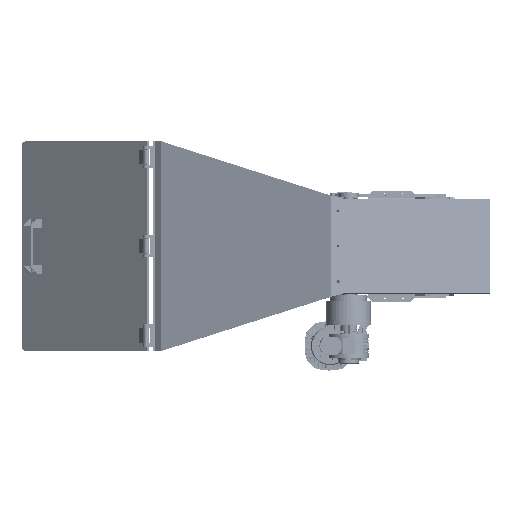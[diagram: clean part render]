
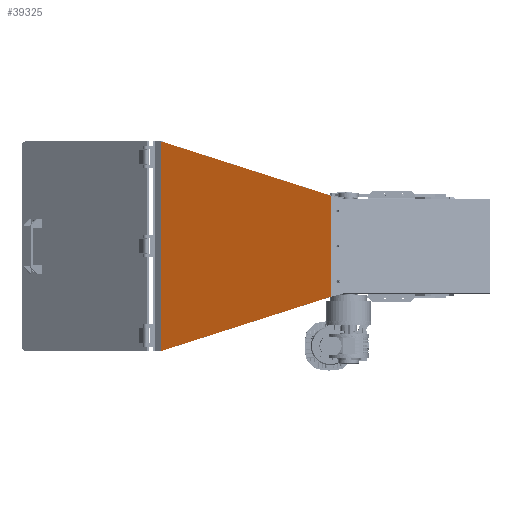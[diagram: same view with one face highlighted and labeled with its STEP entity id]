
A CAD part, left-side view. The second image highlights one B-rep face of the part: STEP entity #39325.
In plain terms, the highlighted planar face has unit normal (-0.945, 0.328, 0) as drawn and (0, 0.94, -0.341) by its records, which use the part's own axes.
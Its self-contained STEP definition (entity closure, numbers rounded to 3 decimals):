
#2611 = CARTESIAN_POINT ( 'NONE',  ( 124.025, 962.234, 265.293 ) ) ;
#7158 = CARTESIAN_POINT ( 'NONE',  ( -258.1, 961.973, 264.575 ) ) ;
#14822 = VECTOR ( 'NONE', #108856, 1000. ) ;
#15674 = ORIENTED_EDGE ( 'NONE', *, *, #158749, .F. ) ;
#20557 = DIRECTION ( 'NONE',  ( -1., 0., 0. ) ) ;
#28321 = DIRECTION ( 'NONE',  ( 1., 0., 0. ) ) ;
#39325 = ADVANCED_FACE ( 'NONE', ( #180606 ), #132396, .F. ) ;
#42725 = CARTESIAN_POINT ( 'NONE',  ( -124.025, 962.234, 265.293 ) ) ;
#43169 = LINE ( 'NONE', #46195, #14822 ) ;
#46195 = CARTESIAN_POINT ( 'NONE',  ( -124.025, 962.234, 265.293 ) ) ;
#53493 = EDGE_CURVE ( 'NONE', #93236, #71992, #179329, .T. ) ;
#58604 = EDGE_LOOP ( 'NONE', ( #190861, #90276, #15674, #83488 ) ) ;
#69249 = LINE ( 'NONE', #163712, #111139 ) ;
#71992 = VERTEX_POINT ( 'NONE', #2611 ) ;
#83488 = ORIENTED_EDGE ( 'NONE', *, *, #151472, .F. ) ;
#84566 = CARTESIAN_POINT ( 'NONE',  ( -124.025, 962.234, 265.293 ) ) ;
#90208 = VERTEX_POINT ( 'NONE', #116453 ) ;
#90276 = ORIENTED_EDGE ( 'NONE', *, *, #177982, .T. ) ;
#92770 = CARTESIAN_POINT ( 'NONE',  ( 258.1, 811.04, -152. ) ) ;
#93236 = VERTEX_POINT ( 'NONE', #84566 ) ;
#108856 = DIRECTION ( 'NONE',  ( -0.289, -0.326, -0.9 ) ) ;
#111139 = VECTOR ( 'NONE', #199555, 1000. ) ;
#116453 = CARTESIAN_POINT ( 'NONE',  ( -258.1, 811.04, -152. ) ) ;
#121832 = DIRECTION ( 'NONE',  ( 0.289, -0.326, -0.9 ) ) ;
#129360 = VECTOR ( 'NONE', #121832, 1000. ) ;
#132396 = PLANE ( 'NONE',  #174282 ) ;
#151472 = EDGE_CURVE ( 'NONE', #93236, #90208, #43169, .T. ) ;
#152629 = LINE ( 'NONE', #185436, #129360 ) ;
#158749 = EDGE_CURVE ( 'NONE', #90208, #190434, #69249, .T. ) ;
#160527 = VECTOR ( 'NONE', #28321, 1000. ) ;
#161170 = DIRECTION ( 'NONE',  ( 0., -0.94, 0.341 ) ) ;
#163712 = CARTESIAN_POINT ( 'NONE',  ( -258.1, 811.04, -152. ) ) ;
#174282 = AXIS2_PLACEMENT_3D ( 'NONE', #7158, #161170, #20557 ) ;
#177982 = EDGE_CURVE ( 'NONE', #71992, #190434, #152629, .T. ) ;
#179329 = LINE ( 'NONE', #42725, #160527 ) ;
#180606 = FACE_OUTER_BOUND ( 'NONE', #58604, .T. ) ;
#185436 = CARTESIAN_POINT ( 'NONE',  ( 124.025, 962.234, 265.293 ) ) ;
#190434 = VERTEX_POINT ( 'NONE', #92770 ) ;
#190861 = ORIENTED_EDGE ( 'NONE', *, *, #53493, .T. ) ;
#199555 = DIRECTION ( 'NONE',  ( 1., 0., 0. ) ) ;
